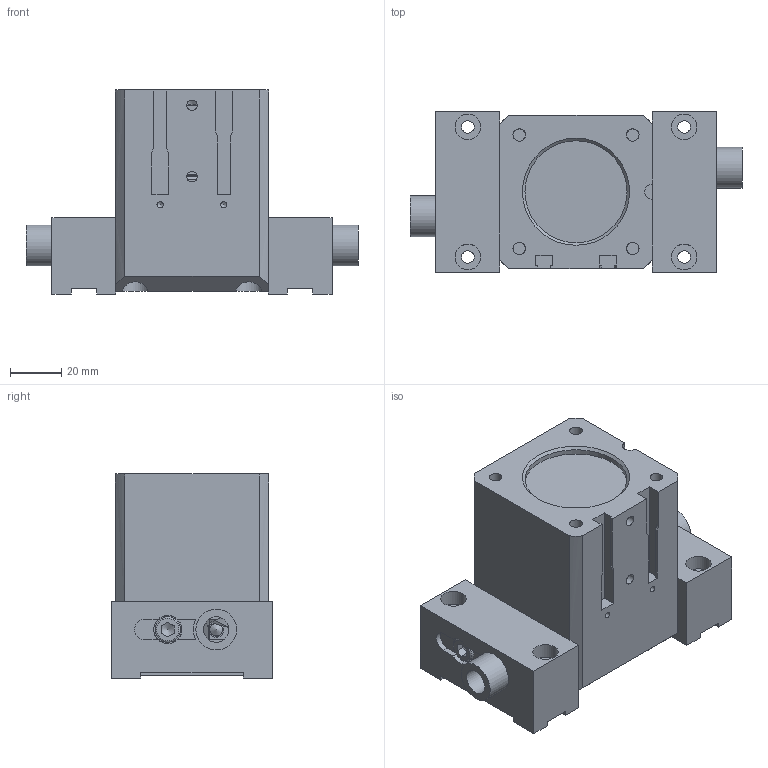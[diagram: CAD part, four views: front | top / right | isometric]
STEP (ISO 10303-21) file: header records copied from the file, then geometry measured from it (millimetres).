
FILE_DESCRIPTION((''),'2;1');
FILE_NAME('T:\CAD\Standard\Daten\3D-Datenbank\GP\4 - 3D-CAD-Daten GP 050-125\GP080\step-Daten\G-GP050-l1-GÖ+UB closed.stp','2013-11-07T09:18:50',('Dirk'),(''),'Autodesk Inventor 2011','Autodesk Inventor 2011','');
FILE_SCHEMA(('AUTOMOTIVE_DESIGN { 1 0 10303 214 1 1 1 1 }'));
Length unit declared in the file: millimetre
Products named in the file (1): Bauteil3
Bounding box: 130.19 x 63 x 80 mm (x, y, z)
Volume: 308978.1 mm3; surface area: 86343.8 mm2
Topology: 1 solids, 23 shells, 431 faces, 1096 edges, 712 vertices
Faces by surface type: plane 245, cylinder 124, cone 34, torus 27, bspline 1
Full cylindrical faces by diameter (mm): 2.459 x2, 4.134 x2, 4.917 x8, 5 x2, 6 x6, 6.5 x4, 6.6 x2, 8.376 x1, 10 x13, 10.5 x1, 11 x8, 16 x2, 18 x7, 20 x2, 24.4 x2, 26 x1, 35 x1, 36 x1, 40 x2, 40.2 x2, 47.1 x2, 50 x5
Entity records: 13194 total; most frequent: CARTESIAN_POINT 3142, DIRECTION 1996, ORIENTED_EDGE 1784, EDGE_CURVE 892, AXIS2_PLACEMENT_3D 759, VERTEX_POINT 639, EDGE_LOOP 634, VECTOR 478
